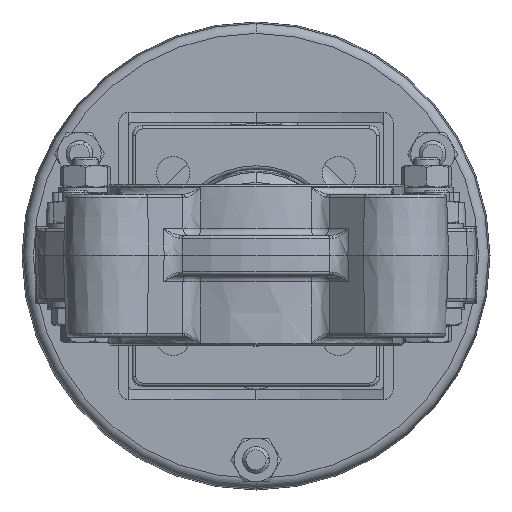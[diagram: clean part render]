
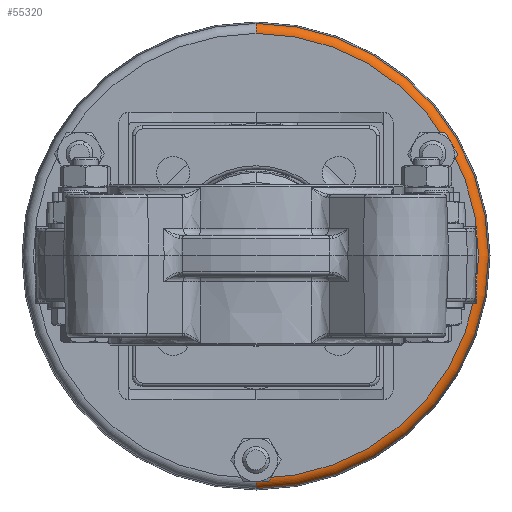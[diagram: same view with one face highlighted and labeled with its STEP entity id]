
A CAD part, front view. The second image highlights one B-rep face of the part: STEP entity #55320.
In plain terms, the highlighted toroidal (fillet/blend) face has major radius 66.579 mm and minor radius 3 mm.
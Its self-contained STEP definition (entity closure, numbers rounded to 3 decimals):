
#1194 = DIRECTION ( 'NONE',  ( 0., 0., -1. ) ) ;
#1925 = DIRECTION ( 'NONE',  ( 0., 0., -1. ) ) ;
#3364 = DIRECTION ( 'NONE',  ( 0., 0., 1. ) ) ;
#9689 = VERTEX_POINT ( 'NONE', #39635 ) ;
#10146 = CARTESIAN_POINT ( 'NONE',  ( 0., 296.395, 69.327 ) ) ;
#12920 = AXIS2_PLACEMENT_3D ( 'NONE', #107137, #54613, #1925 ) ;
#14384 = AXIS2_PLACEMENT_3D ( 'NONE', #108556, #56051, #3364 ) ;
#22086 = ORIENTED_EDGE ( 'NONE', *, *, #79944, .T. ) ;
#23944 = DIRECTION ( 'NONE',  ( -1., 0., 0. ) ) ;
#27291 = EDGE_CURVE ( 'NONE', #9689, #96236, #109025, .T. ) ;
#31983 = EDGE_CURVE ( 'NONE', #34017, #9689, #70438, .T. ) ;
#34017 = VERTEX_POINT ( 'NONE', #84740 ) ;
#37915 = AXIS2_PLACEMENT_3D ( 'NONE', #76522, #23944, #85375 ) ;
#39346 = AXIS2_PLACEMENT_3D ( 'NONE', #50505, #42465, #103792 ) ;
#39635 = CARTESIAN_POINT ( 'NONE',  ( 0., 293.5, 66.329 ) ) ;
#40559 = AXIS2_PLACEMENT_3D ( 'NONE', #106370, #53832, #1194 ) ;
#42465 = DIRECTION ( 'NONE',  ( 0., 1., 0. ) ) ;
#47047 = CIRCLE ( 'NONE', #40559, 3. ) ;
#50505 = CARTESIAN_POINT ( 'NONE',  ( 0., 296.5, -0.25 ) ) ;
#51286 = EDGE_CURVE ( 'NONE', #96236, #112576, #52751, .T. ) ;
#52751 = CIRCLE ( 'NONE', #12920, 69.577 ) ;
#53832 = DIRECTION ( 'NONE',  ( 1., 0., 0. ) ) ;
#54132 = TOROIDAL_SURFACE ( 'NONE', #39346, 66.579, 3. ) ;
#54613 = DIRECTION ( 'NONE',  ( 0., 1., 0. ) ) ;
#55320 = ADVANCED_FACE ( 'NONE', ( #62482 ), #54132, .T. ) ;
#55784 = CARTESIAN_POINT ( 'NONE',  ( 0., 296.395, -69.827 ) ) ;
#56051 = DIRECTION ( 'NONE',  ( 0., -1., 0. ) ) ;
#62482 = FACE_OUTER_BOUND ( 'NONE', #108574, .T. ) ;
#70438 = CIRCLE ( 'NONE', #14384, 66.579 ) ;
#76522 = CARTESIAN_POINT ( 'NONE',  ( 0., 296.5, 66.329 ) ) ;
#79944 = EDGE_CURVE ( 'NONE', #34017, #112576, #47047, .T. ) ;
#84740 = CARTESIAN_POINT ( 'NONE',  ( 0., 293.5, -66.829 ) ) ;
#85375 = DIRECTION ( 'NONE',  ( 0., 0., 1. ) ) ;
#92161 = ORIENTED_EDGE ( 'NONE', *, *, #31983, .F. ) ;
#96236 = VERTEX_POINT ( 'NONE', #10146 ) ;
#103792 = DIRECTION ( 'NONE',  ( 0., 0., 1. ) ) ;
#105380 = ORIENTED_EDGE ( 'NONE', *, *, #51286, .F. ) ;
#106370 = CARTESIAN_POINT ( 'NONE',  ( 0., 296.5, -66.829 ) ) ;
#107137 = CARTESIAN_POINT ( 'NONE',  ( 0., 296.395, -0.25 ) ) ;
#108556 = CARTESIAN_POINT ( 'NONE',  ( 0., 293.5, -0.25 ) ) ;
#108574 = EDGE_LOOP ( 'NONE', ( #92161, #22086, #105380, #111069 ) ) ;
#109025 = CIRCLE ( 'NONE', #37915, 3. ) ;
#111069 = ORIENTED_EDGE ( 'NONE', *, *, #27291, .F. ) ;
#112576 = VERTEX_POINT ( 'NONE', #55784 ) ;
